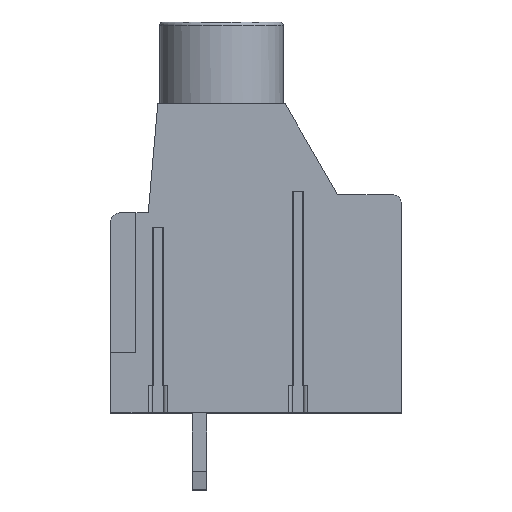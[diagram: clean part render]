
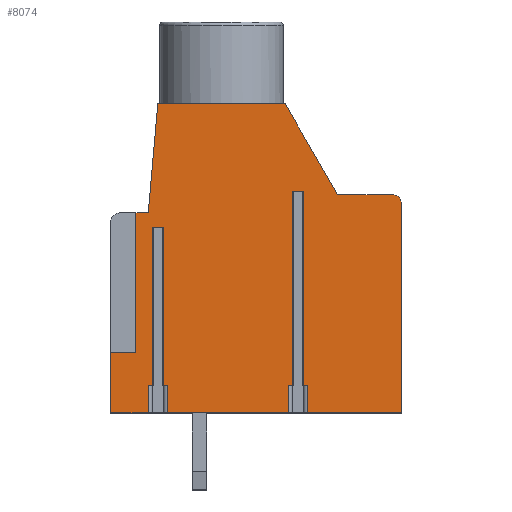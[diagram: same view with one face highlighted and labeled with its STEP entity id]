
A CAD part, top view. The second image highlights one B-rep face of the part: STEP entity #8074.
In plain terms, the highlighted planar face has unit normal (0, 0, 1).
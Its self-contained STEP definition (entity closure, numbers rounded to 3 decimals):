
#151=DIRECTION('',(0.,1.,0.));
#152=VECTOR('',#151,11.5);
#153=CARTESIAN_POINT('',(16.,0.,0.));
#154=LINE('',#153,#152);
#268=DIRECTION('',(0.,-1.,0.));
#269=VECTOR('',#268,3.3);
#270=CARTESIAN_POINT('',(0.,3.3,0.));
#271=LINE('',#270,#269);
#870=DIRECTION('',(-1.,0.,0.));
#871=VECTOR('',#870,0.623);
#872=CARTESIAN_POINT('',(10.611,12.2,0.));
#873=LINE('',#872,#871);
#874=DIRECTION('',(-1.,0.,0.));
#875=VECTOR('',#874,6.661);
#876=CARTESIAN_POINT('',(9.781,0.,0.));
#877=LINE('',#876,#875);
#878=DIRECTION('',(-1.,0.,0.));
#879=VECTOR('',#878,0.623);
#880=CARTESIAN_POINT('',(2.911,10.2,0.));
#881=LINE('',#880,#879);
#882=DIRECTION('',(-1.,0.,0.));
#883=VECTOR('',#882,2.081);
#884=CARTESIAN_POINT('',(2.081,0.,0.));
#885=LINE('',#884,#883);
#886=DIRECTION('',(1.,0.,0.));
#887=VECTOR('',#886,0.675);
#888=CARTESIAN_POINT('',(1.4,11.,0.));
#889=LINE('',#888,#887);
#890=DIRECTION('',(0.087,0.996,0.));
#891=VECTOR('',#890,6.023);
#892=CARTESIAN_POINT('',(2.075,11.,0.));
#893=LINE('',#892,#891);
#894=DIRECTION('',(1.,0.,0.));
#895=VECTOR('',#894,7.);
#896=CARTESIAN_POINT('',(2.6,17.,0.));
#897=LINE('',#896,#895);
#898=DIRECTION('',(0.5,-0.866,0.));
#899=VECTOR('',#898,5.774);
#900=CARTESIAN_POINT('',(9.6,17.,0.));
#901=LINE('',#900,#899);
#902=DIRECTION('',(1.,0.,0.));
#903=VECTOR('',#902,3.013);
#904=CARTESIAN_POINT('',(12.487,12.,0.));
#905=LINE('',#904,#903);
#906=CARTESIAN_POINT('',(15.5,11.5,0.));
#907=DIRECTION('',(0.,0.,-1.));
#908=DIRECTION('',(0.,1.,0.));
#909=AXIS2_PLACEMENT_3D('',#906,#907,#908);
#911=DIRECTION('',(-1.,0.,0.));
#912=VECTOR('',#911,5.181);
#913=CARTESIAN_POINT('',(16.,0.,0.));
#914=LINE('',#913,#912);
#915=DIRECTION('',(1.,0.,0.));
#916=VECTOR('',#915,0.208);
#917=CARTESIAN_POINT('',(10.611,1.5,0.));
#918=LINE('',#917,#916);
#933=DIRECTION('',(0.,-1.,0.));
#934=VECTOR('',#933,1.5);
#935=CARTESIAN_POINT('',(10.819,1.5,0.));
#936=LINE('',#935,#934);
#1021=DIRECTION('',(0.,1.,0.));
#1022=VECTOR('',#1021,1.5);
#1023=CARTESIAN_POINT('',(2.081,0.,0.));
#1024=LINE('',#1023,#1022);
#1029=DIRECTION('',(1.,0.,0.));
#1030=VECTOR('',#1029,0.208);
#1031=CARTESIAN_POINT('',(2.081,1.5,0.));
#1032=LINE('',#1031,#1030);
#1047=DIRECTION('',(0.,1.,0.));
#1048=VECTOR('',#1047,8.7);
#1049=CARTESIAN_POINT('',(2.289,1.5,0.));
#1050=LINE('',#1049,#1048);
#1117=DIRECTION('',(1.,0.,0.));
#1118=VECTOR('',#1117,0.208);
#1119=CARTESIAN_POINT('',(2.911,1.5,0.));
#1120=LINE('',#1119,#1118);
#1135=DIRECTION('',(0.,-1.,0.));
#1136=VECTOR('',#1135,1.5);
#1137=CARTESIAN_POINT('',(3.119,1.5,0.));
#1138=LINE('',#1137,#1136);
#1147=DIRECTION('',(0.,-1.,0.));
#1148=VECTOR('',#1147,8.7);
#1149=CARTESIAN_POINT('',(2.911,10.2,0.));
#1150=LINE('',#1149,#1148);
#1151=DIRECTION('',(0.,1.,0.));
#1152=VECTOR('',#1151,1.5);
#1153=CARTESIAN_POINT('',(9.781,0.,0.));
#1154=LINE('',#1153,#1152);
#1159=DIRECTION('',(1.,0.,0.));
#1160=VECTOR('',#1159,0.208);
#1161=CARTESIAN_POINT('',(9.781,1.5,0.));
#1162=LINE('',#1161,#1160);
#1177=DIRECTION('',(0.,1.,0.));
#1178=VECTOR('',#1177,10.7);
#1179=CARTESIAN_POINT('',(9.989,1.5,0.));
#1180=LINE('',#1179,#1178);
#1251=DIRECTION('',(0.,-1.,0.));
#1252=VECTOR('',#1251,10.7);
#1253=CARTESIAN_POINT('',(10.611,12.2,0.));
#1254=LINE('',#1253,#1252);
#1259=DIRECTION('',(-1.,0.,0.));
#1260=VECTOR('',#1259,1.4);
#1261=CARTESIAN_POINT('',(1.4,3.3,0.));
#1262=LINE('',#1261,#1260);
#1275=DIRECTION('',(0.,-1.,0.));
#1276=VECTOR('',#1275,7.7);
#1277=CARTESIAN_POINT('',(1.4,11.,0.));
#1278=LINE('',#1277,#1276);
#5508=CARTESIAN_POINT('',(16.,0.,0.));
#5509=VERTEX_POINT('',#5508);
#5510=CARTESIAN_POINT('',(16.,11.5,0.));
#5511=VERTEX_POINT('',#5510);
#5596=CARTESIAN_POINT('',(0.,3.3,0.));
#5597=VERTEX_POINT('',#5596);
#5598=CARTESIAN_POINT('',(0.,0.,0.));
#5599=VERTEX_POINT('',#5598);
#5898=CARTESIAN_POINT('',(9.6,17.,0.));
#5899=VERTEX_POINT('',#5898);
#5900=CARTESIAN_POINT('',(2.6,17.,0.));
#5901=VERTEX_POINT('',#5900);
#5910=CARTESIAN_POINT('',(12.487,12.,0.));
#5911=VERTEX_POINT('',#5910);
#5912=CARTESIAN_POINT('',(15.5,12.,0.));
#5913=VERTEX_POINT('',#5912);
#5914=CARTESIAN_POINT('',(10.611,1.5,0.));
#5915=CARTESIAN_POINT('',(10.819,1.5,0.));
#5916=VERTEX_POINT('',#5914);
#5917=VERTEX_POINT('',#5915);
#5918=CARTESIAN_POINT('',(10.611,12.2,0.));
#5919=VERTEX_POINT('',#5918);
#5920=CARTESIAN_POINT('',(9.989,12.2,0.));
#5921=VERTEX_POINT('',#5920);
#5922=CARTESIAN_POINT('',(9.989,1.5,0.));
#5923=VERTEX_POINT('',#5922);
#5924=CARTESIAN_POINT('',(9.781,1.5,0.));
#5925=VERTEX_POINT('',#5924);
#5926=CARTESIAN_POINT('',(9.781,0.,0.));
#5927=VERTEX_POINT('',#5926);
#5928=CARTESIAN_POINT('',(3.119,0.,0.));
#5929=VERTEX_POINT('',#5928);
#5930=CARTESIAN_POINT('',(3.119,1.5,0.));
#5931=VERTEX_POINT('',#5930);
#5932=CARTESIAN_POINT('',(2.911,1.5,0.));
#5933=VERTEX_POINT('',#5932);
#5934=CARTESIAN_POINT('',(2.911,10.2,0.));
#5935=VERTEX_POINT('',#5934);
#5936=CARTESIAN_POINT('',(2.289,10.2,0.));
#5937=VERTEX_POINT('',#5936);
#5938=CARTESIAN_POINT('',(2.289,1.5,0.));
#5939=VERTEX_POINT('',#5938);
#5940=CARTESIAN_POINT('',(2.081,1.5,0.));
#5941=VERTEX_POINT('',#5940);
#5942=CARTESIAN_POINT('',(2.081,0.,0.));
#5943=VERTEX_POINT('',#5942);
#5944=CARTESIAN_POINT('',(1.4,3.3,0.));
#5945=VERTEX_POINT('',#5944);
#5946=CARTESIAN_POINT('',(1.4,11.,0.));
#5947=VERTEX_POINT('',#5946);
#5948=CARTESIAN_POINT('',(2.075,11.,0.));
#5949=VERTEX_POINT('',#5948);
#5950=CARTESIAN_POINT('',(10.819,0.,0.));
#5951=VERTEX_POINT('',#5950);
#8020=CARTESIAN_POINT('',(0.,0.,0.));
#8021=DIRECTION('',(0.,0.,1.));
#8022=DIRECTION('',(1.,0.,0.));
#8023=AXIS2_PLACEMENT_3D('',#8020,#8021,#8022);
#8024=PLANE('',#8023);
#8026=ORIENTED_EDGE('',*,*,#8025,.F.);
#8028=ORIENTED_EDGE('',*,*,#8027,.F.);
#8030=ORIENTED_EDGE('',*,*,#8029,.T.);
#8032=ORIENTED_EDGE('',*,*,#8031,.F.);
#8034=ORIENTED_EDGE('',*,*,#8033,.F.);
#8036=ORIENTED_EDGE('',*,*,#8035,.F.);
#8038=ORIENTED_EDGE('',*,*,#8037,.T.);
#8040=ORIENTED_EDGE('',*,*,#8039,.F.);
#8042=ORIENTED_EDGE('',*,*,#8041,.F.);
#8044=ORIENTED_EDGE('',*,*,#8043,.F.);
#8046=ORIENTED_EDGE('',*,*,#8045,.T.);
#8048=ORIENTED_EDGE('',*,*,#8047,.F.);
#8050=ORIENTED_EDGE('',*,*,#8049,.F.);
#8052=ORIENTED_EDGE('',*,*,#8051,.F.);
#8054=ORIENTED_EDGE('',*,*,#8053,.T.);
#8055=ORIENTED_EDGE('',*,*,#7137,.F.);
#8057=ORIENTED_EDGE('',*,*,#8056,.F.);
#8059=ORIENTED_EDGE('',*,*,#8058,.F.);
#8061=ORIENTED_EDGE('',*,*,#8060,.T.);
#8062=ORIENTED_EDGE('',*,*,#7487,.T.);
#8063=ORIENTED_EDGE('',*,*,#7954,.T.);
#8064=ORIENTED_EDGE('',*,*,#7986,.T.);
#8065=ORIENTED_EDGE('',*,*,#8000,.T.);
#8066=ORIENTED_EDGE('',*,*,#8013,.T.);
#8067=ORIENTED_EDGE('',*,*,#7019,.F.);
#8069=ORIENTED_EDGE('',*,*,#8068,.T.);
#8071=ORIENTED_EDGE('',*,*,#8070,.F.);
#8072=EDGE_LOOP('',(#8026,#8028,#8030,#8032,#8034,#8036,#8038,#8040,#8042,#8044,
#8046,#8048,#8050,#8052,#8054,#8055,#8057,#8059,#8061,#8062,#8063,#8064,#8065,
#8066,#8067,#8069,#8071));
#8073=FACE_OUTER_BOUND('',#8072,.F.);
#8074=ADVANCED_FACE('',(#8073),#8024,.T.);
#910=CIRCLE('',#909,0.5);
#7019=EDGE_CURVE('',#5509,#5511,#154,.T.);
#7137=EDGE_CURVE('',#5597,#5599,#271,.T.);
#7487=EDGE_CURVE('',#5949,#5901,#893,.T.);
#7954=EDGE_CURVE('',#5901,#5899,#897,.T.);
#7986=EDGE_CURVE('',#5899,#5911,#901,.T.);
#8000=EDGE_CURVE('',#5911,#5913,#905,.T.);
#8013=EDGE_CURVE('',#5913,#5511,#910,.T.);
#8025=EDGE_CURVE('',#5916,#5917,#918,.T.);
#8027=EDGE_CURVE('',#5919,#5916,#1254,.T.);
#8029=EDGE_CURVE('',#5919,#5921,#873,.T.);
#8031=EDGE_CURVE('',#5923,#5921,#1180,.T.);
#8033=EDGE_CURVE('',#5925,#5923,#1162,.T.);
#8035=EDGE_CURVE('',#5927,#5925,#1154,.T.);
#8037=EDGE_CURVE('',#5927,#5929,#877,.T.);
#8039=EDGE_CURVE('',#5931,#5929,#1138,.T.);
#8041=EDGE_CURVE('',#5933,#5931,#1120,.T.);
#8043=EDGE_CURVE('',#5935,#5933,#1150,.T.);
#8045=EDGE_CURVE('',#5935,#5937,#881,.T.);
#8047=EDGE_CURVE('',#5939,#5937,#1050,.T.);
#8049=EDGE_CURVE('',#5941,#5939,#1032,.T.);
#8051=EDGE_CURVE('',#5943,#5941,#1024,.T.);
#8053=EDGE_CURVE('',#5943,#5599,#885,.T.);
#8056=EDGE_CURVE('',#5945,#5597,#1262,.T.);
#8058=EDGE_CURVE('',#5947,#5945,#1278,.T.);
#8060=EDGE_CURVE('',#5947,#5949,#889,.T.);
#8068=EDGE_CURVE('',#5509,#5951,#914,.T.);
#8070=EDGE_CURVE('',#5917,#5951,#936,.T.);
